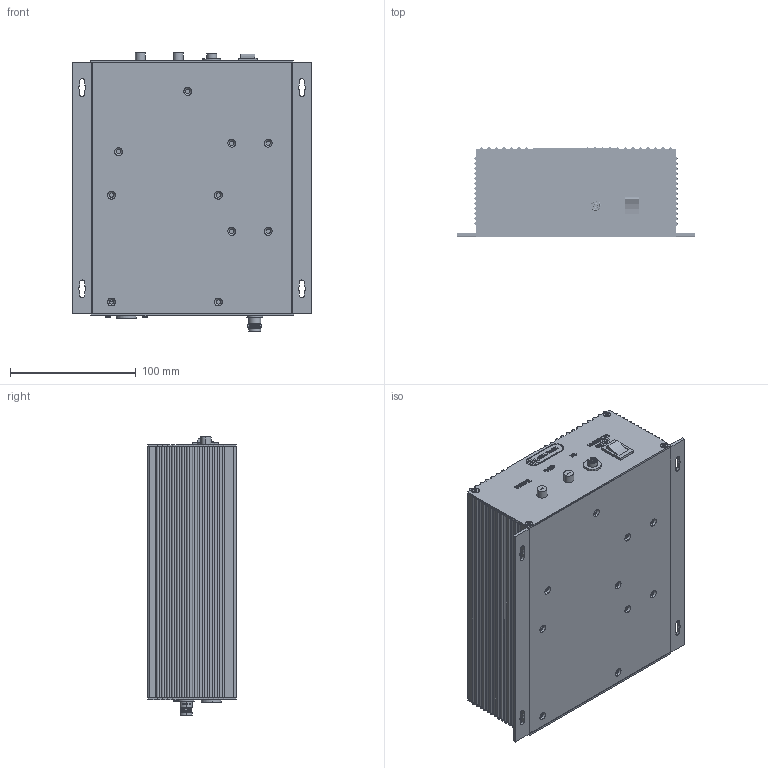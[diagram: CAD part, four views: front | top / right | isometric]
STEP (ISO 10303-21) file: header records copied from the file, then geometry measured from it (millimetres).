
FILE_DESCRIPTION (( 'STEP AP214' ), '1' );
FILE_NAME ('Assem1.STEP', '2025-09-15T21:23:44', ( 'Windows User' ), ( '' ), 'SwSTEP 2.0', 'SolidWorks 2023', '' );
FILE_SCHEMA (( 'AUTOMOTIVE_DESIGN' ));
Length unit declared in the file: inch
Products named in the file (13): U325-000-KPA-BK_USB; U-AEE278_base; U-AEE278_top; SW649-ND_switch; U-AEE278_back; DC_plug; U-AEE278_front2; 92010A120_Passivated 18-8 Stainless Steel Phillips Flat Head Screw; CONBNC004_BNC; FC connector; H83P_panel_mount; 94209A313_Thread-Forming Screws for Soft Metal; Assem1
Assembly tree (21 placements, depth 2):
  Assem1
    U-AEE278_top
    U-AEE278_base
    U-AEE278_back
    U-AEE278_front2
    CONBNC004_BNC
    DC_plug
    FC connector
    SW649-ND_switch
    U325-000-KPA-BK_USB
    92010A120_Passivated 18-8 Stainless Steel Phillips Flat Head Screw  x8
    94209A313_Thread-Forming Screws for Soft Metal  x2
    H83P_panel_mount  x2
Bounding box: 190 x 70.65 x 221.26 mm (x, y, z)
Volume: 303629.9 mm3; surface area: 284086.8 mm2
Topology: 27 solids, 27 shells, 2385 faces, 6646 edges, 4403 vertices
Faces by surface type: plane 1009, cylinder 972, bspline 302, cone 86, torus 16
Entity records: 81916 total; most frequent: CARTESIAN_POINT 37602, ORIENTED_EDGE 9820, DIRECTION 8043, EDGE_CURVE 4910, VERTEX_POINT 3247, LINE 3121, VECTOR 3121, AXIS2_PLACEMENT_3D 2461
